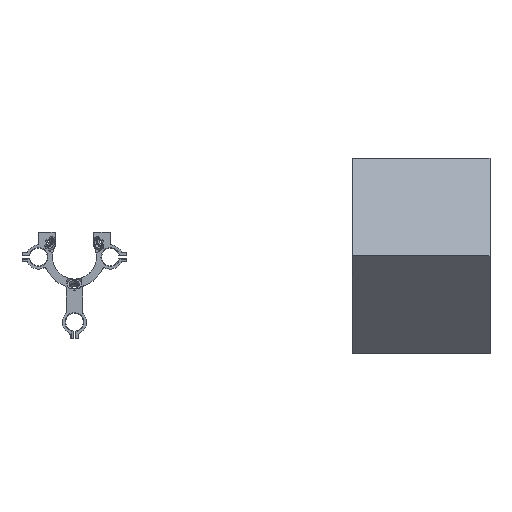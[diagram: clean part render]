
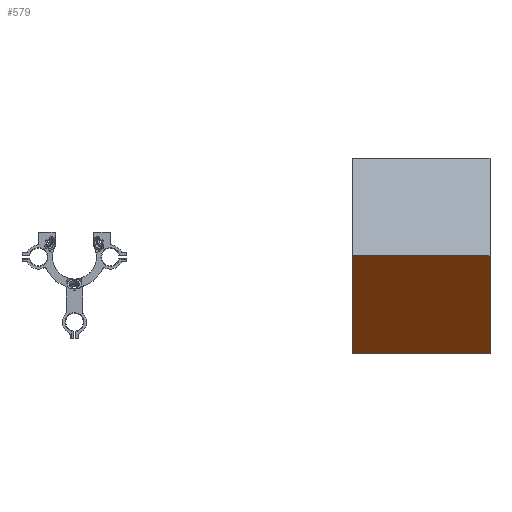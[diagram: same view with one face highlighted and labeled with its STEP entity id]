
A CAD part, top view. The second image highlights one B-rep face of the part: STEP entity #579.
In plain terms, the highlighted planar face has unit normal (0, -0.707, 0.707).
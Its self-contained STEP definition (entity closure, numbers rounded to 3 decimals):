
#169=PLANE('',#5879);
#579=ADVANCED_FACE('',(#787),#169,.T.);
#787=FACE_OUTER_BOUND('',#1023,.F.);
#1023=EDGE_LOOP('',(#2198,#2199,#2200,#2201));
#2198=ORIENTED_EDGE('',*,*,#4932,.F.);
#2199=ORIENTED_EDGE('',*,*,#4940,.F.);
#2200=ORIENTED_EDGE('',*,*,#4936,.T.);
#2201=ORIENTED_EDGE('',*,*,#4939,.T.);
#3845=LINE('',#9045,#4101);
#3849=LINE('',#9049,#4105);
#3852=LINE('',#9052,#4108);
#3853=LINE('',#9053,#4109);
#4101=VECTOR('',#7026,250.);
#4105=VECTOR('',#7030,250.);
#4108=VECTOR('',#7033,250.);
#4109=VECTOR('',#7034,250.);
#4932=EDGE_CURVE('',#5423,#5425,#3845,.T.);
#4936=EDGE_CURVE('',#5419,#5421,#3849,.T.);
#4939=EDGE_CURVE('',#5421,#5425,#3852,.T.);
#4940=EDGE_CURVE('',#5419,#5423,#3853,.T.);
#5419=VERTEX_POINT('',#9037);
#5421=VERTEX_POINT('',#9039);
#5423=VERTEX_POINT('',#9041);
#5425=VERTEX_POINT('',#9043);
#5879=AXIS2_PLACEMENT_3D('',#9059,#7043,#7044);
#7026=DIRECTION('',(0.,-0.707,-0.707));
#7030=DIRECTION('',(0.,-0.707,-0.707));
#7033=DIRECTION('',(-1.,0.,0.));
#7034=DIRECTION('',(-1.,0.,0.));
#7043=DIRECTION('',(0.,-0.707,0.707));
#7044=DIRECTION('',(0.,-0.707,-0.707));
#9037=CARTESIAN_POINT('',(1537.375,419.252,598.65));
#9039=CARTESIAN_POINT('',(1537.375,242.476,421.874));
#9041=CARTESIAN_POINT('',(1287.375,419.252,598.65));
#9043=CARTESIAN_POINT('',(1287.375,242.476,421.874));
#9045=CARTESIAN_POINT('',(1287.375,419.252,598.65));
#9049=CARTESIAN_POINT('',(1537.375,419.252,598.65));
#9052=CARTESIAN_POINT('',(1537.375,242.476,421.874));
#9053=CARTESIAN_POINT('',(1537.375,419.252,598.65));
#9059=CARTESIAN_POINT('',(1284.875,421.02,600.418));
